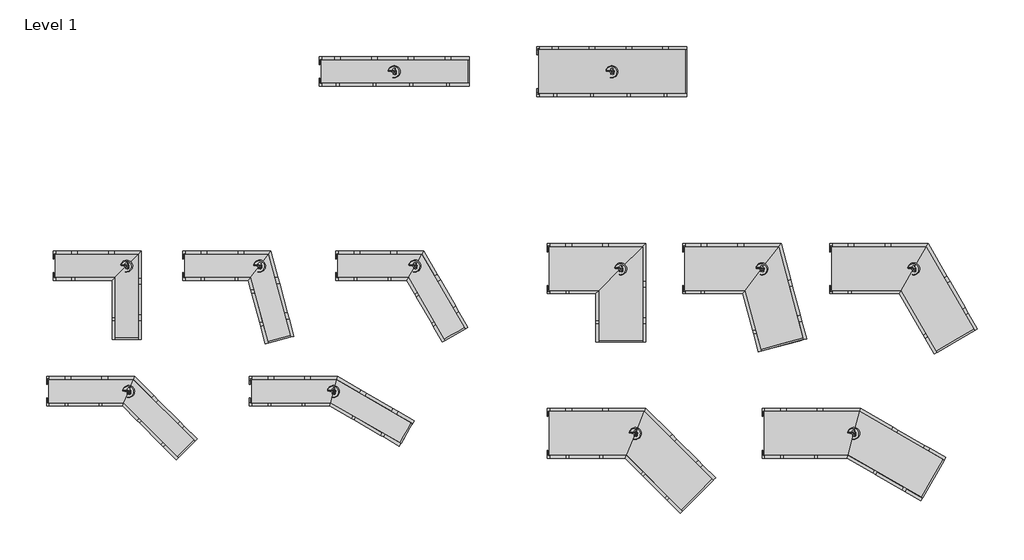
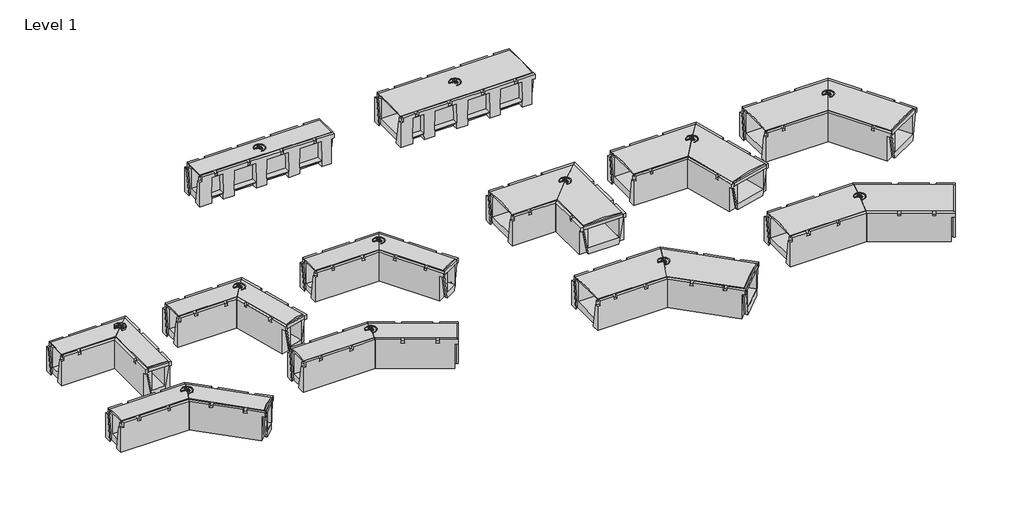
# One storey: 12 cable carrier fittings.
"""IFC4 building model written with IfcOpenShell, lengths in millimetres."""

from ifc_helpers import new_model, si_unit, origin, place, context, project, spatial, transform, mapped, element, save
from components import cable_carrier_fitting_8a8851dd, cable_carrier_fitting_28983398, cable_carrier_fitting_a2e915ad, cable_carrier_fitting_630ba067, cable_carrier_fitting_d8d9572d, cable_carrier_fitting_827e61d7, cable_carrier_fitting_f17cfeea, cable_carrier_fitting_d1a5fffa, cable_carrier_fitting_8de855c7, cable_carrier_fitting_e2ee2367, cable_carrier_fitting_05708309, cable_carrier_fitting_ffa84dba

model = new_model("IFC4")

# Units and contexts
model_context = context("Model", 3, world=origin())
ifc_project = project(units=[si_unit("LENGTHUNIT", "METRE", prefix="MILLI")], contexts=[model_context])

# Site, building, storey
site = spatial("IfcSite", under=ifc_project)
building = spatial("IfcBuilding", under=site)
storey = spatial("IfcBuildingStorey", under=building, Name="Level 1", Elevation=0.0)

# Cable carrier fittings
placement = place(None, origin())
cable_carrier_fitting_shape = cable_carrier_fitting_8a8851dd(model_context)
element("IfcCableCarrierFitting", 1, ObjectType="Evotray with cover : Evotray type 1", at=placement, inside=storey, context=model_context, shape_type="MappedRepresentation", body=[
    mapped(cable_carrier_fitting_shape, transform((-168.3249837, 781.0437029, 0.0), x_axis=(1.0, 0.0, 0.0), y_axis=(0.0, 1.0, 0.0), z_axis=(0.0, 0.0, 1.0))),
])
cable_carrier_fitting_2_shape = cable_carrier_fitting_28983398(model_context)
element("IfcCableCarrierFitting", 2, ObjectType="Evotray with cover : Evotray type 2", at=placement, inside=storey, context=model_context, shape_type="MappedRepresentation", body=[
    mapped(cable_carrier_fitting_2_shape, transform((1311.6750163, 781.0437029, 0.0), x_axis=(1.0, 0.0, 0.0), y_axis=(0.0, 1.0, 0.0), z_axis=(0.0, 0.0, 1.0))),
])
cable_carrier_fitting_3_shape = cable_carrier_fitting_a2e915ad(model_context)
element("IfcCableCarrierFitting", 3, ObjectType="Evotray type 1 horizontal bend : Evotray type 1 horizontal bend", at=placement, inside=storey, context=model_context, shape_type="MappedRepresentation", body=[
    mapped(cable_carrier_fitting_3_shape, transform((-1987.459418, -541.5424849, 0.0), x_axis=(1.0, 0.0, 0.0), y_axis=(0.0, 1.0, 0.0), z_axis=(0.0, 0.0, 1.0))),
])
cable_carrier_fitting_4_shape = cable_carrier_fitting_630ba067(model_context)
element("IfcCableCarrierFitting", 4, ObjectType="Evotray type 2 horizontal bend : Evotray type 2 horizontal bend", at=placement, inside=storey, context=model_context, shape_type="MappedRepresentation", body=[
    mapped(cable_carrier_fitting_4_shape, transform((1372.540582, -561.5424849, 0.0), x_axis=(1.0, 0.0, 0.0), y_axis=(0.0, 1.0, 0.0), z_axis=(0.0, 0.0, 1.0))),
])
cable_carrier_fitting_5_shape = cable_carrier_fitting_d8d9572d(model_context)
element("IfcCableCarrierFitting", 5, ObjectType="Evotray type 2 horizontal bend : Evotray type 2 horizontal bend", at=placement, inside=storey, context=model_context, shape_type="MappedRepresentation", body=[
    mapped(cable_carrier_fitting_5_shape, transform((2292.540582, -561.5424849, 0.0), x_axis=(1.0, 0.0, 0.0), y_axis=(0.0, 1.0, 0.0), z_axis=(0.0, 0.0, 1.0))),
])
cable_carrier_fitting_6_shape = cable_carrier_fitting_827e61d7(model_context)
element("IfcCableCarrierFitting", 6, ObjectType="Evotray type 2 horizontal bend : Evotray type 2 horizontal bend", at=placement, inside=storey, context=model_context, shape_type="MappedRepresentation", body=[
    mapped(cable_carrier_fitting_6_shape, transform((3292.540582, -561.5424849, 0.0), x_axis=(1.0, 0.0, 0.0), y_axis=(0.0, 1.0, 0.0), z_axis=(0.0, 0.0, 1.0))),
])
cable_carrier_fitting_7_shape = cable_carrier_fitting_f17cfeea(model_context)
element("IfcCableCarrierFitting", 7, ObjectType="Evotray type 2 horizontal bend : Evotray type 2 horizontal bend", at=placement, inside=storey, context=model_context, shape_type="MappedRepresentation", body=[
    mapped(cable_carrier_fitting_7_shape, transform((1372.540582, -1681.5424849, 0.0), x_axis=(1.0, 0.0, 0.0), y_axis=(0.0, 1.0, 0.0), z_axis=(0.0, 0.0, 1.0))),
])
cable_carrier_fitting_8_shape = cable_carrier_fitting_d1a5fffa(model_context)
element("IfcCableCarrierFitting", 8, ObjectType="Evotray type 2 horizontal bend : Evotray type 2 horizontal bend", at=placement, inside=storey, context=model_context, shape_type="MappedRepresentation", body=[
    mapped(cable_carrier_fitting_8_shape, transform((2832.540582, -1681.5424849, 0.0), x_axis=(1.0, 0.0, 0.0), y_axis=(0.0, 1.0, 0.0), z_axis=(0.0, 0.0, 1.0))),
])
cable_carrier_fitting_9_shape = cable_carrier_fitting_8de855c7(model_context)
element("IfcCableCarrierFitting", 9, ObjectType="Evotray type 1 horizontal bend : Evotray type 1 horizontal bend", at=placement, inside=storey, context=model_context, shape_type="MappedRepresentation", body=[
    mapped(cable_carrier_fitting_9_shape, transform((-1107.459418, -541.5424849, 0.0), x_axis=(1.0, 0.0, 0.0), y_axis=(0.0, 1.0, 0.0), z_axis=(0.0, 0.0, 1.0))),
])
cable_carrier_fitting_10_shape = cable_carrier_fitting_e2ee2367(model_context)
element("IfcCableCarrierFitting", 10, ObjectType="Evotray type 1 horizontal bend : Evotray type 1 horizontal bend", at=placement, inside=storey, context=model_context, shape_type="MappedRepresentation", body=[
    mapped(cable_carrier_fitting_10_shape, transform((-67.459418, -541.5424849, 0.0), x_axis=(1.0, 0.0, 0.0), y_axis=(0.0, 1.0, 0.0), z_axis=(0.0, 0.0, 1.0))),
])
cable_carrier_fitting_11_shape = cable_carrier_fitting_05708309(model_context)
element("IfcCableCarrierFitting", 11, ObjectType="Evotray type 1 horizontal bend : Evotray type 1 horizontal bend", at=placement, inside=storey, context=model_context, shape_type="MappedRepresentation", body=[
    mapped(cable_carrier_fitting_11_shape, transform((-2033.0891897, -1395.708463, 0.0), x_axis=(1.0, 0.0, 0.0), y_axis=(0.0, 1.0, 0.0), z_axis=(0.0, 0.0, 1.0))),
])
cable_carrier_fitting_12_shape = cable_carrier_fitting_ffa84dba(model_context)
element("IfcCableCarrierFitting", 12, ObjectType="Evotray type 1 horizontal bend : Evotray type 1 horizontal bend", at=placement, inside=storey, context=model_context, shape_type="MappedRepresentation", body=[
    mapped(cable_carrier_fitting_12_shape, transform((-653.0891897, -1395.708463, 0.0), x_axis=(1.0, 0.0, 0.0), y_axis=(0.0, 1.0, 0.0), z_axis=(0.0, 0.0, 1.0))),
])

save(model, "model.ifc")
